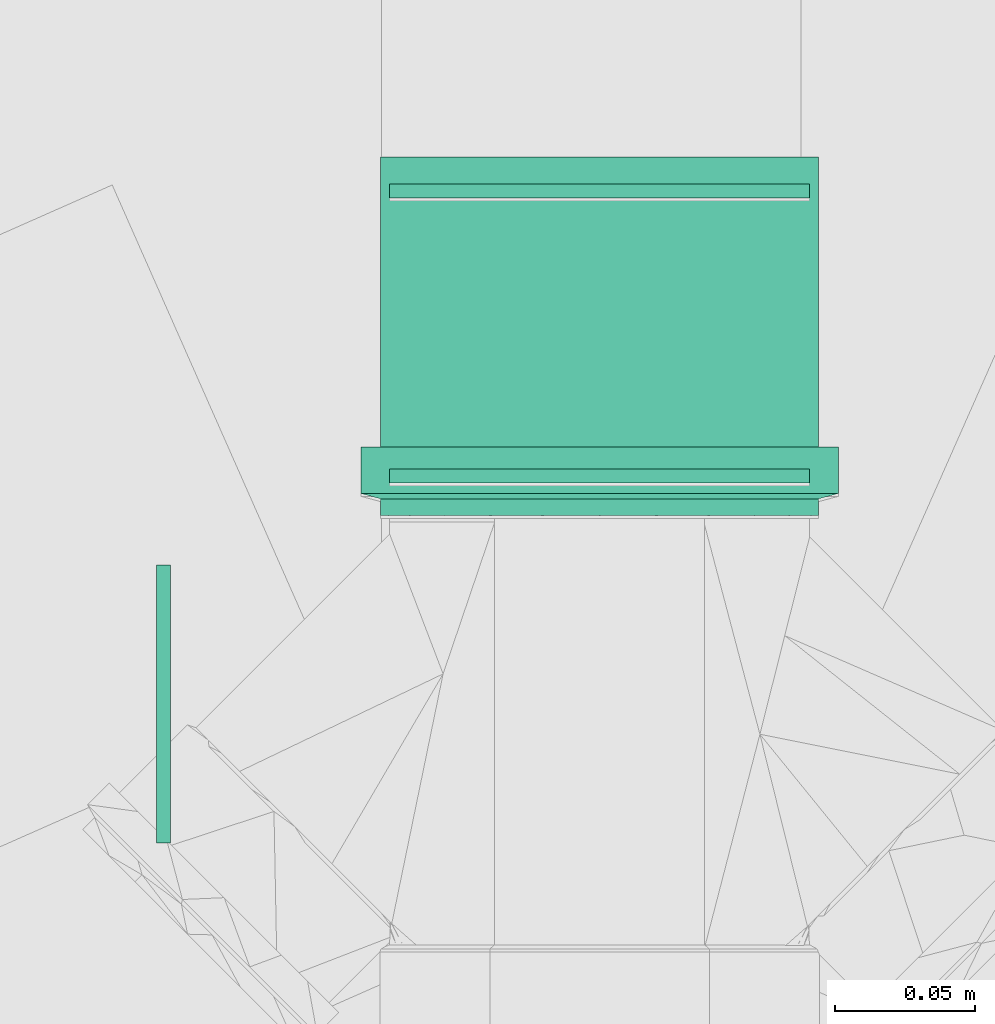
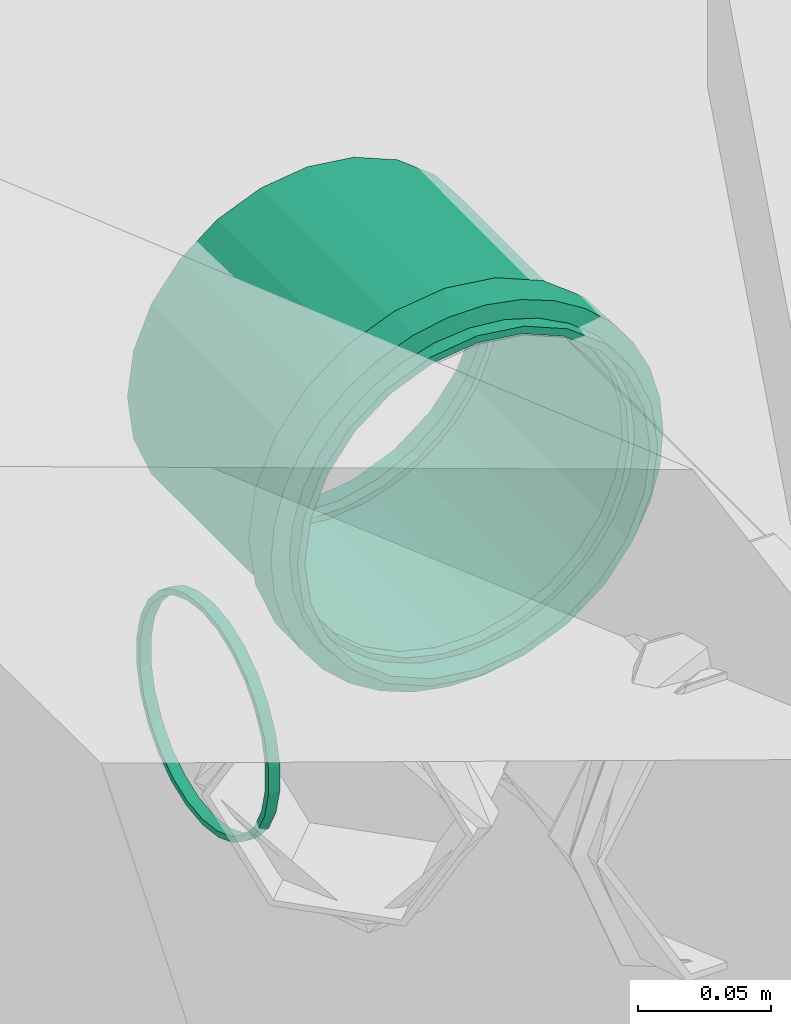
# One storey, part 78 of 166: 4 flow fittings.
"""IFC2X3 building model written with IfcOpenShell, lengths in metres."""

from ifc_helpers import new_model, entity, si_unit, converted_unit, direction, frame, frame_2d, origin, place, context, subcontext, project, spatial, hollow_circle, extrude, faceted_brep, source, transform, mapped, material, type_object, type_shapes, element, save


model = new_model("IFC2X3")

# Units and contexts
model_context = context("Model", 3, precision=1e-05, world=origin(), true_north=direction((6.123233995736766e-17, 1.0)))
body_context = subcontext(model_context, "Body", "Model", "MODEL_VIEW")
ifc_project = project(units=[si_unit("LENGTHUNIT", "METRE"), converted_unit("PLANEANGLEUNIT", "DEGREE", entity("IfcPlaneAngleMeasure", 0.017453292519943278), si_unit("PLANEANGLEUNIT", "RADIAN"), dimensions=[0, 0, 0, 0, 0, 0, 0]), si_unit("AREAUNIT", "SQUARE_METRE")], contexts=[model_context])

# Site, building, storey
site_placement = place(None, origin())
site = spatial("IfcSite", under=ifc_project, at=site_placement, Name="Default", CompositionType="ELEMENT")
building_placement = place(site_placement, origin())
building = spatial("IfcBuilding", under=site, at=building_placement, Name="CASA DE ACOLHIDA PARA IDOSOS", CompositionType="ELEMENT")
storey_placement = place(building_placement, frame((0.0, 0.0, -1.7499999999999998)))
storey = spatial("IfcBuildingStorey", under=building, at=storey_placement, Name="IMPLANTAÇÃO DRENAGEM", CompositionType="ELEMENT", Elevation=-1.7499999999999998)

# Flow fittings
ifc_material_1 = material(Name="PVC Bege Pérola")
pipe_fitting_type_1 = type_object("IfcPipeFittingType", Name="PLUV_Serie Reforcada_Luva Simples:Standard", PredefinedType="NOTDEFINED", material=ifc_material_1)
shared_shape_1 = source(origin(), body_context, "Body", "Brep", [
    faceted_brep([(0.02451000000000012, -0.039124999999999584, -0.06776648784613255), (0.02451000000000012, -0.06028085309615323, -0.06028085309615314), (0.02451000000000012, -0.04262500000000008, -0.07382866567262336), (0.02451000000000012, -0.020252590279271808, -0.0755836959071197), (0.02451000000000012, -0.05533110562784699, -0.055331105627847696), (0.02451000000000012, -0.07382866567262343, -0.04262499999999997), (0.02451000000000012, -0.06776648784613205, -0.03912500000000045), (0.02451000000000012, -0.07558369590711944, -0.02025259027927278), (0.02451000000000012, -0.08234517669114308, -0.022064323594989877), (0.02451000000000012, -0.07825, 0.0), (0.02451000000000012, -0.08525, 0.0), (0.02451000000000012, -0.07558369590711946, 0.020252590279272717), (0.02451000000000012, -0.0823451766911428, 0.022064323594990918), (0.02451000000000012, -0.06776648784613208, 0.039125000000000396), (0.02451000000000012, -0.07382866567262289, 0.04262500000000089), (0.02451000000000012, -0.05533110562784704, 0.055331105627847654), (0.02451000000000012, -0.06028085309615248, 0.0602808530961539), (0.02451000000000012, -0.03912499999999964, 0.06776648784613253), (0.02451000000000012, -0.04262499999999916, 0.07382866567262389), (0.02451000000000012, -0.020252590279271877, 0.07558369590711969), (0.02451000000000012, -0.02206432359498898, 0.08234517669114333), (0.02451000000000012, 0.0, 0.07825), (0.02451000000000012, 0.0, 0.08525), (0.02451000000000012, 0.020252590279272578, 0.0755836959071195), (0.02451000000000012, 0.022064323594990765, 0.08234517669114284), (0.02451000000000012, 0.03912500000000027, 0.06776648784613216), (0.02451000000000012, 0.042625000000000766, 0.07382866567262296), (0.02451000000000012, 0.05533110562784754, 0.055331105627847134), (0.02451000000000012, 0.0602808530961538, 0.06028085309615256), (0.02451000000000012, 0.06776648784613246, 0.03912499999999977), (0.02451000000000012, 0.07382866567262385, 0.042624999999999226), (0.02451000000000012, 0.08234517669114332, 0.02206432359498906), (0.02451000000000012, 0.07558369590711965, 0.020252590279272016), (0.02451000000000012, 0.08525, 0.0), (0.02451000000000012, 0.07825, 0.0), (0.02451000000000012, 0.08234517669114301, -0.022064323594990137), (0.02451000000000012, 0.07558369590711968, -0.020252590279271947), (0.02451000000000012, 0.07382866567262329, -0.04262500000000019), (0.02451000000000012, 0.0677664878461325, -0.03912499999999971), (0.02451000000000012, 0.060280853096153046, -0.060280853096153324), (0.02451000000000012, 0.05533110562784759, -0.055331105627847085), (0.02451000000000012, 0.042624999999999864, -0.0738286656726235), (0.02451000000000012, 0.039125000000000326, -0.06776648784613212), (0.02451000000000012, 0.02206432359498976, -0.08234517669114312), (0.02451000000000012, 0.02025259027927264, -0.07558369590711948), (0.02451000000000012, 0.0, -0.08525), (0.02451000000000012, 0.0, -0.07825), (0.02451000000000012, -0.022064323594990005, -0.08234517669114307), (0.007830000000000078, 0.08379835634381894, 0.01566518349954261), (0.007830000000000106, 0.07949286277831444, 0.03079687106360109), (0.007830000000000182, 0.05137242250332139, 0.06803261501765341), (0.007830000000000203, 0.03799626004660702, 0.07631413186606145), (0.007830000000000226, 0.00786152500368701, 0.08488674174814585), (0.00783000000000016, 0.06299903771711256, 0.057434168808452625), (0.007830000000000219, 0.023326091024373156, 0.08199668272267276), (0.007830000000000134, 0.07248014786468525, 0.044879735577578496), (0.00783000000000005, 0.08525, 0.0), (0.00783000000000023, -0.007870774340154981, 0.08488588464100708), (0.007830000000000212, -0.03800457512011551, 0.07630999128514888), (0.007830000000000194, -0.05137983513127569, 0.06802701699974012), (0.007830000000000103, -0.07949621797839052, 0.030788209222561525), (0.007830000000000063, -0.08380006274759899, 0.015656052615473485), (0.007830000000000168, -0.06300529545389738, 0.05742730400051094), (0.00783000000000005, -0.08525, 0.0), (0.007830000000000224, -0.023335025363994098, 0.08199414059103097), (0.007830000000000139, -0.07248503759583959, 0.04487183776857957), (0.007830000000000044, -0.08380006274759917, -0.015656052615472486), (0.007830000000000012, -0.07949621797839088, -0.03078820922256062), (0.00782999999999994, -0.05137983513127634, -0.06802701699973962), (0.007829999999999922, -0.038004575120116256, -0.07630999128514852), (0.007829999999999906, -0.007870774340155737, -0.084885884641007), (0.00782999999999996, -0.063005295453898, -0.05742730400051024), (0.007829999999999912, -0.023335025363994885, -0.08199414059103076), (0.007829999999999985, -0.07248503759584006, -0.04487183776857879), (0.007829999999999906, 0.007861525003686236, -0.0848867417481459), (0.007829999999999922, 0.037996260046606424, -0.07631413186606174), (0.007829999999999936, 0.05137242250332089, -0.06803261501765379), (0.00783, 0.07949286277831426, -0.030796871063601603), (0.007830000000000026, 0.08379835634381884, -0.015665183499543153), (0.007829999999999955, 0.06299903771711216, -0.057434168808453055), (0.007829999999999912, 0.023326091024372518, -0.08199668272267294), (0.007829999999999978, 0.07248014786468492, -0.044879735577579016), (0.1280100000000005, -0.0374999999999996, -0.06495190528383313), (0.1280100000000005, -0.055331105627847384, -0.05533110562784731), (0.1280100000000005, -0.03912500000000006, -0.06776648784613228), (0.1280100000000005, -0.01941142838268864, -0.07244443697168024), (0.1280100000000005, -0.05303300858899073, -0.053033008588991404), (0.1280100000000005, -0.06776648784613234, -0.039124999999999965), (0.1280100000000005, -0.06495190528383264, -0.03750000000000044), (0.1280100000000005, -0.07244443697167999, -0.01941142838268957), (0.1280100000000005, -0.07558369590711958, -0.020252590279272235), (0.1280100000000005, -0.07500000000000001, 0.0), (0.1280100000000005, -0.07825, 0.0), (0.1280100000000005, -0.07244443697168, 0.019411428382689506), (0.1280100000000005, -0.07558369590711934, 0.020252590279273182), (0.1280100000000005, -0.06495190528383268, 0.03750000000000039), (0.1280100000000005, -0.06776648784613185, 0.03912500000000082), (0.1280100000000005, -0.05303300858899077, 0.05303300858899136), (0.1280100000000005, -0.0553311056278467, 0.055331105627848), (0.1280100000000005, -0.03749999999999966, 0.0649519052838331), (0.1280100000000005, -0.039124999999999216, 0.06776648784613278), (0.1280100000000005, -0.0194114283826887, 0.07244443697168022), (0.1280100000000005, -0.020252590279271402, 0.07558369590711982), (0.1280100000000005, 0.0, 0.07500000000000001), (0.1280100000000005, 0.0, 0.07825), (0.1280100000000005, 0.019411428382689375, 0.07244443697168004), (0.1280100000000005, 0.020252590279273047, 0.07558369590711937), (0.1280100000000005, 0.03750000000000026, 0.06495190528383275), (0.1280100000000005, 0.039125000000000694, 0.06776648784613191), (0.1280100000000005, 0.05303300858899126, 0.05303300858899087), (0.1280100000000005, 0.055331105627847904, 0.05533110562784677), (0.1280100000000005, 0.06495190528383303, 0.037499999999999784), (0.1280100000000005, 0.06776648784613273, 0.039124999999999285), (0.1280100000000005, 0.0755836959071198, 0.02025259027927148), (0.1280100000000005, 0.07244443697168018, 0.019411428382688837), (0.1280100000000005, 0.07825, 0.0), (0.1280100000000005, 0.07500000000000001, 0.0), (0.1280100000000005, 0.07558369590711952, -0.020252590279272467), (0.1280100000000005, 0.0724444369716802, -0.01941142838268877), (0.1280100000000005, 0.06776648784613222, -0.039125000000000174), (0.1280100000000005, 0.06495190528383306, -0.03749999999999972), (0.1280100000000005, 0.05533110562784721, -0.05533110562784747), (0.1280100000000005, 0.053033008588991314, -0.05303300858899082), (0.1280100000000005, 0.03912499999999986, -0.0677664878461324), (0.1280100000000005, 0.03750000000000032, -0.06495190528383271), (0.1280100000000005, 0.02025259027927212, -0.07558369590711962), (0.1280100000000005, 0.019411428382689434, -0.07244443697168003), (0.1280100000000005, 0.0, -0.07825), (0.1280100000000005, 0.0, -0.07500000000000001), (0.1280100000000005, -0.020252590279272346, -0.07558369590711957), (0.0, -0.03912500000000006, -0.06776648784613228), (0.0, -0.055331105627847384, -0.05533110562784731), (0.0, -0.0374999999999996, -0.06495190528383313), (0.0, -0.01941142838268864, -0.07244443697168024), (0.0, -0.020252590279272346, -0.07558369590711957), (0.0, -0.05303300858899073, -0.053033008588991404), (0.0, -0.06776648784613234, -0.039124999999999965), (0.0, -0.06495190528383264, -0.03750000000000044), (0.0, -0.07244443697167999, -0.01941142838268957), (0.0, -0.07558369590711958, -0.020252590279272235), (0.0, -0.07500000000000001, 0.0), (0.0, -0.07825, 0.0), (0.0, -0.07244443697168, 0.019411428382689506), (0.0, -0.07558369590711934, 0.020252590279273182), (0.0, -0.06495190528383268, 0.03750000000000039), (0.0, -0.06776648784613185, 0.03912500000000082), (0.0, -0.05303300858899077, 0.05303300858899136), (0.0, -0.0553311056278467, 0.055331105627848), (0.0, -0.03749999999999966, 0.0649519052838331), (0.0, -0.039124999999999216, 0.06776648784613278), (0.0, -0.0194114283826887, 0.07244443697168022), (0.0, -0.020252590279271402, 0.07558369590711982), (0.0, 0.0, 0.07500000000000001), (0.0, 0.0, 0.07825), (0.0, 0.019411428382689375, 0.07244443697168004), (0.0, 0.020252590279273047, 0.07558369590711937), (0.0, 0.03750000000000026, 0.06495190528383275), (0.0, 0.039125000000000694, 0.06776648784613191), (0.0, 0.05303300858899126, 0.05303300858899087), (0.0, 0.055331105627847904, 0.05533110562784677), (0.0, 0.06495190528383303, 0.037499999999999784), (0.0, 0.06776648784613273, 0.039124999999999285), (0.0, 0.0755836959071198, 0.02025259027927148), (0.0, 0.07244443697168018, 0.019411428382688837), (0.0, 0.07825, 0.0), (0.0, 0.07500000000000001, 0.0), (0.0, 0.07558369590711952, -0.020252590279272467), (0.0, 0.0724444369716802, -0.01941142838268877), (0.0, 0.06776648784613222, -0.039125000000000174), (0.0, 0.06495190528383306, -0.03749999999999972), (0.0, 0.05533110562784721, -0.05533110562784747), (0.0, 0.053033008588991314, -0.05303300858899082), (0.0, 0.03912499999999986, -0.0677664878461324), (0.0, 0.03750000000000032, -0.06495190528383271), (0.0, 0.02025259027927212, -0.07558369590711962), (0.0, 0.019411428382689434, -0.07244443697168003), (0.0, 0.0, -0.07825), (0.0, 0.0, -0.07500000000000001), (0.0059500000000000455, 0.07825, 0.0), (0.005950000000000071, 0.07674636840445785, 0.015266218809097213), (0.005950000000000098, 0.0722932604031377, 0.02994573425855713), (0.005950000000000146, 0.05532994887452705, 0.05533226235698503), (0.005950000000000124, 0.06506181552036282, 0.043474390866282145), (0.005950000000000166, 0.04347167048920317, 0.06506363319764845), (0.005950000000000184, 0.029942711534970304, 0.07229451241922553), (0.005950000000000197, 0.015263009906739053, 0.07674700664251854), (0.005950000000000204, -3.271758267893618e-06, 0.07824999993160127), (0.005950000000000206, -0.015269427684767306, 0.07674573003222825), (0.005950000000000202, -0.029948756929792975, 0.07229200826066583), (0.005950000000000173, -0.055334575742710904, 0.05532763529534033), (0.00595000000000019, -0.04347711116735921, 0.0650599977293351), (0.0059500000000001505, -0.06506545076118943, 0.043468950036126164), (0.005950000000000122, -0.07229576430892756, 0.02993968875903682), (0.0059500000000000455, -0.07825, 0.0), (0.005950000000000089, -0.07674764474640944, 0.015259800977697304), (0.0059499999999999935, -0.07674764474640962, -0.015259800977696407), (0.005949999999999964, -0.0722957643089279, -0.02993968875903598), (0.005949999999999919, -0.05533457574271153, -0.05532763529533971), (0.005949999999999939, -0.06506545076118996, -0.04346895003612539), (0.005949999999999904, -0.04347711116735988, -0.06505999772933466), (0.005949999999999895, -0.029948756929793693, -0.07229200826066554), (0.00594999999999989, -0.015269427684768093, -0.0767457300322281), (0.005949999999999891, -3.2717582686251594e-06, -0.07824999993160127), (0.005949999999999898, 0.015263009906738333, -0.07674700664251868), (0.00594999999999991, 0.029942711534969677, -0.0722945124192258), (0.005949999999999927, 0.04347167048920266, -0.0650636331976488), (0.00594999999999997, 0.06506181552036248, -0.043474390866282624), (0.005949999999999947, 0.055329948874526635, -0.055332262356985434), (0.005949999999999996, 0.0722932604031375, -0.02994573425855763), (0.00595000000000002, 0.07674636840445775, -0.015266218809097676), (0.06700000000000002, 0.07500000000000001, 0.0), (0.067, -0.07500000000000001, 0.0)], [[[0, 1, 2]], [[3, 0, 2]], [[4, 1, 0]], [[1, 4, 5]], [[6, 5, 4]], [[7, 5, 6]], [[5, 7, 8]], [[7, 9, 8]], [[10, 8, 9]], [[10, 9, 11]], [[11, 12, 10]], [[13, 12, 11]], [[12, 13, 14]], [[15, 14, 13]], [[16, 14, 15]], [[16, 15, 17]], [[17, 18, 16]], [[19, 18, 17]], [[18, 19, 20]], [[21, 20, 19]], [[22, 20, 21]], [[23, 22, 21]], [[24, 22, 23]], [[25, 24, 23]], [[24, 25, 26]], [[25, 27, 26]], [[28, 26, 27]], [[27, 29, 28]], [[28, 29, 30]], [[31, 30, 29]], [[29, 32, 31]], [[31, 32, 33]], [[32, 34, 33]], [[33, 34, 35]], [[34, 36, 35]], [[37, 35, 36]], [[36, 38, 37]], [[39, 37, 38]], [[40, 39, 38]], [[40, 41, 39]], [[42, 41, 40]], [[43, 41, 42]], [[42, 44, 43]], [[43, 44, 45]], [[44, 46, 45]], [[46, 3, 47]], [[45, 46, 47]], [[2, 47, 3]], [[33, 48, 31]], [[31, 49, 30]], [[26, 28, 50]], [[51, 24, 26]], [[22, 24, 52]], [[53, 28, 30]], [[24, 54, 52]], [[30, 49, 55]], [[31, 48, 49]], [[33, 56, 48]], [[26, 50, 51]], [[50, 28, 53]], [[30, 55, 53]], [[54, 24, 51]], [[22, 57, 20]], [[18, 20, 58]], [[59, 16, 18]], [[12, 14, 60]], [[61, 10, 12]], [[62, 14, 16]], [[61, 63, 10]], [[18, 58, 59]], [[20, 64, 58]], [[20, 57, 64]], [[14, 65, 60]], [[65, 14, 62]], [[16, 59, 62]], [[61, 12, 60]], [[52, 57, 22]], [[10, 66, 8]], [[8, 67, 5]], [[2, 1, 68]], [[69, 47, 2]], [[45, 47, 70]], [[71, 1, 5]], [[47, 72, 70]], [[5, 67, 73]], [[8, 66, 67]], [[10, 63, 66]], [[2, 68, 69]], [[68, 1, 71]], [[5, 73, 71]], [[72, 47, 69]], [[45, 74, 43]], [[41, 43, 75]], [[76, 39, 41]], [[77, 35, 37]], [[33, 35, 78]], [[78, 56, 33]], [[79, 37, 39]], [[35, 77, 78]], [[41, 75, 76]], [[43, 80, 75]], [[43, 74, 80]], [[81, 37, 79]], [[39, 76, 79]], [[37, 81, 77]], [[70, 74, 45]], [[82, 83, 84]], [[85, 82, 84]], [[86, 83, 82]], [[83, 86, 87]], [[88, 87, 86]], [[89, 87, 88]], [[87, 89, 90]], [[89, 91, 90]], [[92, 90, 91]], [[92, 91, 93]], [[93, 94, 92]], [[95, 94, 93]], [[94, 95, 96]], [[97, 96, 95]], [[98, 96, 97]], [[98, 97, 99]], [[99, 100, 98]], [[101, 100, 99]], [[100, 101, 102]], [[103, 102, 101]], [[104, 102, 103]], [[105, 104, 103]], [[106, 104, 105]], [[107, 106, 105]], [[106, 107, 108]], [[108, 107, 109]], [[110, 108, 109]], [[109, 111, 110]], [[110, 111, 112]], [[113, 112, 111]], [[111, 114, 113]], [[113, 114, 115]], [[114, 116, 115]], [[115, 116, 117]], [[116, 118, 117]], [[119, 117, 118]], [[118, 120, 119]], [[121, 119, 120]], [[122, 121, 120]], [[122, 123, 121]], [[123, 122, 124]], [[125, 123, 124]], [[124, 126, 125]], [[125, 126, 127]], [[126, 128, 127]], [[128, 85, 129]], [[127, 128, 129]], [[84, 129, 85]], [[130, 131, 132]], [[130, 132, 133]], [[133, 134, 130]], [[132, 131, 135]], [[136, 135, 131]], [[135, 136, 137]], [[137, 136, 138]], [[139, 138, 136]], [[139, 140, 138]], [[140, 139, 141]], [[142, 140, 141]], [[141, 143, 142]], [[142, 143, 144]], [[145, 144, 143]], [[144, 145, 146]], [[146, 145, 147]], [[148, 146, 147]], [[147, 149, 148]], [[148, 149, 150]], [[151, 150, 149]], [[150, 151, 152]], [[152, 151, 153]], [[152, 153, 154]], [[154, 153, 155]], [[154, 155, 156]], [[157, 156, 155]], [[158, 156, 157]], [[158, 157, 159]], [[159, 160, 158]], [[161, 160, 159]], [[160, 161, 162]], [[162, 163, 160]], [[164, 163, 162]], [[164, 165, 163]], [[166, 165, 164]], [[166, 167, 165]], [[167, 166, 168]], [[168, 169, 167]], [[169, 168, 170]], [[169, 170, 171]], [[170, 172, 171]], [[173, 171, 172]], [[173, 172, 174]], [[174, 175, 173]], [[176, 175, 174]], [[134, 177, 176]], [[176, 177, 175]], [[134, 133, 177]], [[178, 164, 179]], [[179, 162, 180]], [[181, 182, 159]], [[159, 183, 181]], [[161, 182, 180]], [[183, 157, 184]], [[182, 161, 159]], [[180, 162, 161]], [[179, 164, 162]], [[155, 153, 185]], [[186, 185, 153]], [[155, 184, 157]], [[183, 159, 157]], [[184, 155, 185]], [[187, 153, 151]], [[187, 151, 188]], [[189, 190, 147]], [[147, 191, 189]], [[149, 190, 188]], [[191, 145, 192]], [[191, 147, 145]], [[190, 149, 147]], [[188, 151, 149]], [[141, 193, 194]], [[194, 143, 141]], [[192, 145, 143]], [[143, 194, 192]], [[186, 153, 187]], [[193, 141, 195]], [[195, 139, 196]], [[197, 198, 131]], [[131, 199, 197]], [[136, 198, 196]], [[199, 130, 200]], [[198, 136, 131]], [[196, 139, 136]], [[195, 141, 139]], [[176, 201, 134]], [[134, 200, 130]], [[176, 202, 201]], [[199, 131, 130]], [[200, 134, 201]], [[203, 174, 204]], [[204, 172, 205]], [[206, 207, 170]], [[208, 206, 168]], [[170, 207, 205]], [[209, 208, 166]], [[205, 172, 170]], [[204, 174, 172]], [[203, 176, 174]], [[209, 166, 164]], [[166, 208, 168]], [[206, 170, 168]], [[178, 209, 164]], [[202, 176, 203]], [[206, 208, 81]], [[78, 209, 178]], [[77, 208, 209]], [[75, 204, 205]], [[205, 207, 76]], [[206, 79, 207]], [[204, 80, 203]], [[77, 209, 78]], [[78, 178, 56]], [[81, 208, 77]], [[203, 80, 74]], [[207, 79, 76]], [[205, 76, 75]], [[204, 75, 80]], [[79, 206, 81]], [[74, 202, 203]], [[200, 201, 72]], [[202, 70, 201]], [[200, 69, 199]], [[67, 195, 196]], [[196, 198, 73]], [[71, 198, 197]], [[199, 68, 197]], [[193, 195, 66]], [[199, 69, 68]], [[201, 70, 72]], [[200, 72, 69]], [[193, 66, 63]], [[198, 71, 73]], [[196, 73, 67]], [[195, 67, 66]], [[71, 197, 68]], [[74, 70, 202]], [[191, 192, 65]], [[61, 194, 193]], [[60, 192, 194]], [[58, 188, 190]], [[190, 189, 59]], [[191, 62, 189]], [[188, 64, 187]], [[60, 194, 61]], [[61, 193, 63]], [[65, 192, 60]], [[187, 64, 57]], [[189, 62, 59]], [[190, 59, 58]], [[188, 58, 64]], [[62, 191, 65]], [[57, 186, 187]], [[184, 185, 54]], [[186, 52, 185]], [[184, 51, 183]], [[49, 179, 180]], [[180, 182, 55]], [[53, 182, 181]], [[183, 50, 181]], [[178, 179, 48]], [[183, 51, 50]], [[185, 52, 54]], [[184, 54, 51]], [[178, 48, 56]], [[182, 53, 55]], [[180, 55, 49]], [[179, 49, 48]], [[53, 181, 50]], [[57, 52, 186]], [[113, 115, 34, 32]], [[113, 32, 29, 112]], [[108, 110, 27, 25]], [[27, 110, 112, 29]], [[106, 108, 25, 23]], [[23, 21, 104, 106]], [[100, 102, 19, 17]], [[100, 17, 15, 98]], [[94, 96, 13, 11]], [[13, 96, 98, 15]], [[92, 94, 11, 9]], [[104, 21, 19, 102]], [[90, 92, 9, 7]], [[90, 7, 6, 87]], [[3, 129, 84, 0]], [[4, 0, 84, 83]], [[83, 87, 6, 4]], [[3, 46, 127, 129]], [[123, 125, 44, 42]], [[123, 42, 40, 121]], [[117, 119, 38, 36]], [[38, 119, 121, 40]], [[115, 117, 36, 34]], [[127, 46, 44, 125]], [[210, 116, 114, 163, 165]], [[109, 107, 156, 158]], [[158, 160, 111, 109]], [[160, 163, 114, 111]], [[154, 156, 107, 105]], [[105, 103, 152, 154]], [[150, 152, 103, 101]], [[99, 148, 150, 101]], [[95, 93, 142, 144]], [[144, 146, 97, 95]], [[146, 148, 99, 97]], [[211, 140, 142, 93, 91]], [[91, 89, 138, 140, 211]], [[86, 82, 132, 135]], [[138, 89, 88, 137]], [[86, 135, 137, 88]], [[133, 132, 82, 85]], [[85, 128, 177, 133]], [[175, 177, 128, 126]], [[124, 173, 175, 126]], [[120, 118, 167, 169]], [[169, 171, 122, 120]], [[171, 173, 124, 122]], [[210, 165, 167, 118, 116]]]),
])
type_shapes(pipe_fitting_type_1, [shared_shape_1])
flow_fitting_1_placement = place(storey_placement, frame((-21.978362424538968, -6.065442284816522, -0.5), z_axis=(0.0, 0.0, -1.0), x_axis=(0.0, 1.0, 0.0)))
element("IfcFlowFitting", 1, at=flow_fitting_1_placement, inside=storey, type_object=pipe_fitting_type_1, material=ifc_material_1, Name="PLUV_Serie Reforcada_Luva Simples:Standard", ObjectType="PLUV_Serie Reforcada_Luva Simples:Standard", context=body_context, shape_type="MappedRepresentation", body=[
    mapped(shared_shape_1, transform((0.0, 0.0, 0.0), scale=1.0)),
])
ifc_material_2 = material(Name="Borracha")
pipe_fitting_type_2 = type_object("IfcPipeFittingType", Name="AN_PLUV_Anel de vedação para Conexão Série R:AN_PLUV_Anel de vedação para Conexão Série R", PredefinedType="NOTDEFINED", material=ifc_material_2)
shared_shape_2 = source(origin(), body_context, "Body", "SweptSolid", [
    extrude(hollow_circle(Radius=0.05, WallThickness=0.0024999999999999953, at=frame_2d((2.979563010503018e-18, -2.251062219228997e-16), x_axis=(1.0, 0.0))), frame((0.0, 0.0, -0.004999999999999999)), (0.0, 0.0, 1.0), 0.004999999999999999),
])
type_shapes(pipe_fitting_type_2, [shared_shape_2])
flow_fitting_2_placement = place(storey_placement, frame((-22.131708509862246, -6.1327583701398, -0.5), z_axis=(1.0, 0.0, 0.0), x_axis=(0.0, 0.0, 1.0)))
element("IfcFlowFitting", 2, at=flow_fitting_2_placement, inside=storey, type_object=pipe_fitting_type_2, material=ifc_material_2, Name="AN_PLUV_Anel de vedação para Conexão Série R:AN_PLUV_Anel de vedação para Conexão Série R", ObjectType="AN_PLUV_Anel de vedação para Conexão Série R:AN_PLUV_Anel de vedação para Conexão Série R", context=body_context, shape_type="MappedRepresentation", body=[
    mapped(shared_shape_2, transform((0.0, 0.0, 0.0), scale=1.0)),
])
pipe_fitting_type_3 = type_object("IfcPipeFittingType", Name="AN_PLUV_Anel de vedação para Conexão Série R:AN_PLUV_Anel de vedação para Conexão Série R", PredefinedType="NOTDEFINED", material=ifc_material_2)
shared_shape_3 = source(origin(), body_context, "Body", "SweptSolid", [
    extrude(hollow_circle(Radius=0.07500000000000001, WallThickness=0.0025000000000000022, at=frame_2d((2.979563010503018e-18, -3.3765933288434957e-16), x_axis=(1.0, 0.0))), frame((0.0, 0.0, -0.004999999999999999)), (0.0, 0.0, 1.0), 0.004999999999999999),
])
type_shapes(pipe_fitting_type_3, [shared_shape_3])
for number, where, z_axis, x_axis in (
    (3, (-21.978362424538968, -5.952092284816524, -0.5), (0.0, -1.0, 0.0), (0.0, 0.0, 1.0)),
    (4, (-21.978362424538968, -6.048842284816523, -0.5), (0.0, 1.0, 0.0), (0.0, 0.0, 1.0)),
):
    element("IfcFlowFitting", number, at=place(storey_placement, frame(where, z_axis=z_axis, x_axis=x_axis)), inside=storey, type_object=pipe_fitting_type_3, material=ifc_material_2, Name="AN_PLUV_Anel de vedação para Conexão Série R:AN_PLUV_Anel de vedação para Conexão Série R", ObjectType="AN_PLUV_Anel de vedação para Conexão Série R:AN_PLUV_Anel de vedação para Conexão Série R", context=body_context, shape_type="MappedRepresentation", body=[
        mapped(shared_shape_3, transform((0.0, 0.0, 0.0), scale=1.0)),
    ])

save(model, "model.ifc")
